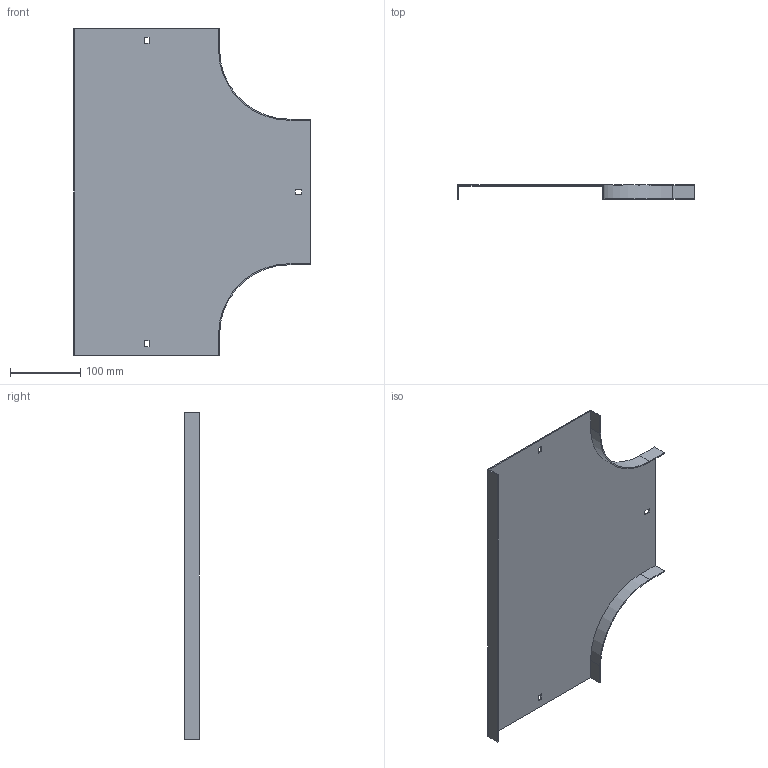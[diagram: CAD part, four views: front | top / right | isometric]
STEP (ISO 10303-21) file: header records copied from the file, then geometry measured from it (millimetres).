
FILE_DESCRIPTION (( 'STEP AP214' ), '1' );
FILE_NAME ('15G1R200.step', '2025-02-21T13:02:42', ( '' ), ( '' ), 'SwSTEP 2.0', 'SolidWorks 2023', '' );
FILE_SCHEMA (( 'AUTOMOTIVE_DESIGN' ));
Length unit declared in the file: millimetre
Products named in the file (1): 15G1R200
Bounding box: 335.5 x 20 x 464 mm (x, y, z)
Volume: 214812.9 mm3; surface area: 288994.9 mm2
Topology: 1 solids, 1 shells, 34 faces, 96 edges, 64 vertices
Faces by surface type: plane 30, cylinder 4
Entity records: 1123 total; most frequent: CARTESIAN_POINT 195, ORIENTED_EDGE 192, DIRECTION 174, EDGE_CURVE 96, VECTOR 88, LINE 88, VERTEX_POINT 64, AXIS2_PLACEMENT_3D 43
